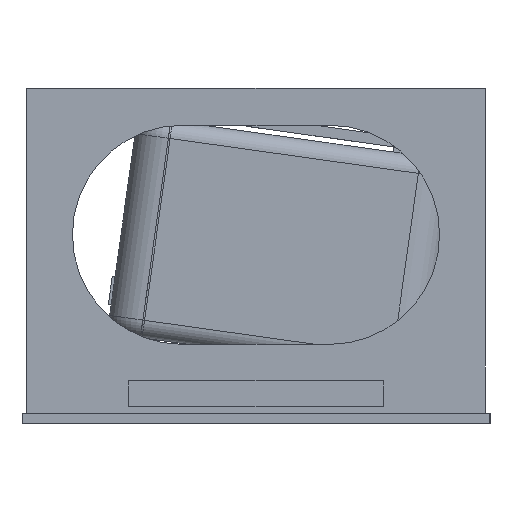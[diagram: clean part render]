
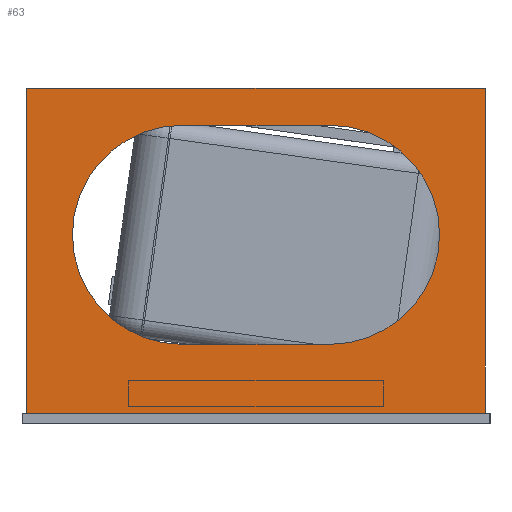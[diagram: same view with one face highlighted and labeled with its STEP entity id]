
A CAD part, left-side view. The second image highlights one B-rep face of the part: STEP entity #63.
In plain terms, the highlighted planar face has unit normal (-1, 0, 0).
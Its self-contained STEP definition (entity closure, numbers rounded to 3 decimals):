
#63 = ADVANCED_FACE('',(#64,#181),#78,.F.);
#64 = FACE_BOUND('',#65,.F.);
#65 = EDGE_LOOP('',(#66,#101,#127,#155));
#66 = ORIENTED_EDGE('',*,*,#67,.F.);
#67 = EDGE_CURVE('',#68,#70,#72,.T.);
#68 = VERTEX_POINT('',#69);
#69 = CARTESIAN_POINT('',(-107.,-65.,3.));
#70 = VERTEX_POINT('',#71);
#71 = CARTESIAN_POINT('',(-107.,-65.,95.));
#72 = SURFACE_CURVE('',#73,(#77,#89),.PCURVE_S1.);
#73 = LINE('',#74,#75);
#74 = CARTESIAN_POINT('',(-107.,-65.,0.));
#75 = VECTOR('',#76,1.);
#76 = DIRECTION('',(0.,0.,1.));
#77 = PCURVE('',#78,#83);
#78 = PLANE('',#79);
#79 = AXIS2_PLACEMENT_3D('',#80,#81,#82);
#80 = CARTESIAN_POINT('',(-107.,-65.,0.));
#81 = DIRECTION('',(1.,0.,0.));
#82 = DIRECTION('',(0.,0.,1.));
#83 = DEFINITIONAL_REPRESENTATION('',(#84),#88);
#84 = LINE('',#85,#86);
#85 = CARTESIAN_POINT('',(0.,0.));
#86 = VECTOR('',#87,1.);
#87 = DIRECTION('',(1.,0.));
#88 = ( GEOMETRIC_REPRESENTATION_CONTEXT(2) 
PARAMETRIC_REPRESENTATION_CONTEXT() REPRESENTATION_CONTEXT('2D SPACE',''
  ) );
#89 = PCURVE('',#90,#95);
#90 = PLANE('',#91);
#91 = AXIS2_PLACEMENT_3D('',#92,#93,#94);
#92 = CARTESIAN_POINT('',(-107.,-65.,0.));
#93 = DIRECTION('',(0.,1.,0.));
#94 = DIRECTION('',(0.,0.,1.));
#95 = DEFINITIONAL_REPRESENTATION('',(#96),#100);
#96 = LINE('',#97,#98);
#97 = CARTESIAN_POINT('',(0.,0.));
#98 = VECTOR('',#99,1.);
#99 = DIRECTION('',(1.,0.));
#100 = ( GEOMETRIC_REPRESENTATION_CONTEXT(2) 
PARAMETRIC_REPRESENTATION_CONTEXT() REPRESENTATION_CONTEXT('2D SPACE',''
  ) );
#101 = ORIENTED_EDGE('',*,*,#102,.F.);
#102 = EDGE_CURVE('',#103,#68,#105,.T.);
#103 = VERTEX_POINT('',#104);
#104 = CARTESIAN_POINT('',(-107.,65.,3.));
#105 = SURFACE_CURVE('',#106,(#110,#116),.PCURVE_S1.);
#106 = LINE('',#107,#108);
#107 = CARTESIAN_POINT('',(-107.,-65.5,3.));
#108 = VECTOR('',#109,1.);
#109 = DIRECTION('',(0.,-1.,0.));
#110 = PCURVE('',#78,#111);
#111 = DEFINITIONAL_REPRESENTATION('',(#112),#115);
#112 = B_SPLINE_CURVE_WITH_KNOTS('',1,(#113,#114),.UNSPECIFIED.,.F.,.F.,
  (2,2),(-130.5,-0.5),.PIECEWISE_BEZIER_KNOTS.);
#113 = CARTESIAN_POINT('',(3.,-130.));
#114 = CARTESIAN_POINT('',(3.,0.));
#115 = ( GEOMETRIC_REPRESENTATION_CONTEXT(2) 
PARAMETRIC_REPRESENTATION_CONTEXT() REPRESENTATION_CONTEXT('2D SPACE',''
  ) );
#116 = PCURVE('',#117,#122);
#117 = PLANE('',#118);
#118 = AXIS2_PLACEMENT_3D('',#119,#120,#121);
#119 = CARTESIAN_POINT('',(-108.,-66.,3.));
#120 = DIRECTION('',(0.,0.,1.));
#121 = DIRECTION('',(1.,0.,0.));
#122 = DEFINITIONAL_REPRESENTATION('',(#123),#126);
#123 = B_SPLINE_CURVE_WITH_KNOTS('',1,(#124,#125),.UNSPECIFIED.,.F.,.F.,
  (2,2),(-130.5,-0.5),.PIECEWISE_BEZIER_KNOTS.);
#124 = CARTESIAN_POINT('',(1.,131.));
#125 = CARTESIAN_POINT('',(1.,1.));
#126 = ( GEOMETRIC_REPRESENTATION_CONTEXT(2) 
PARAMETRIC_REPRESENTATION_CONTEXT() REPRESENTATION_CONTEXT('2D SPACE',''
  ) );
#127 = ORIENTED_EDGE('',*,*,#128,.F.);
#128 = EDGE_CURVE('',#129,#103,#131,.T.);
#129 = VERTEX_POINT('',#130);
#130 = CARTESIAN_POINT('',(-107.,65.,95.));
#131 = SURFACE_CURVE('',#132,(#136,#143),.PCURVE_S1.);
#132 = LINE('',#133,#134);
#133 = CARTESIAN_POINT('',(-107.,65.,95.));
#134 = VECTOR('',#135,1.);
#135 = DIRECTION('',(0.,0.,-1.));
#136 = PCURVE('',#78,#137);
#137 = DEFINITIONAL_REPRESENTATION('',(#138),#142);
#138 = LINE('',#139,#140);
#139 = CARTESIAN_POINT('',(95.,-130.));
#140 = VECTOR('',#141,1.);
#141 = DIRECTION('',(-1.,0.));
#142 = ( GEOMETRIC_REPRESENTATION_CONTEXT(2) 
PARAMETRIC_REPRESENTATION_CONTEXT() REPRESENTATION_CONTEXT('2D SPACE',''
  ) );
#143 = PCURVE('',#144,#149);
#144 = PLANE('',#145);
#145 = AXIS2_PLACEMENT_3D('',#146,#147,#148);
#146 = CARTESIAN_POINT('',(-107.,65.,0.));
#147 = DIRECTION('',(0.,1.,0.));
#148 = DIRECTION('',(0.,0.,1.));
#149 = DEFINITIONAL_REPRESENTATION('',(#150),#154);
#150 = LINE('',#151,#152);
#151 = CARTESIAN_POINT('',(95.,0.));
#152 = VECTOR('',#153,1.);
#153 = DIRECTION('',(-1.,0.));
#154 = ( GEOMETRIC_REPRESENTATION_CONTEXT(2) 
PARAMETRIC_REPRESENTATION_CONTEXT() REPRESENTATION_CONTEXT('2D SPACE',''
  ) );
#155 = ORIENTED_EDGE('',*,*,#156,.F.);
#156 = EDGE_CURVE('',#70,#129,#157,.T.);
#157 = SURFACE_CURVE('',#158,(#162,#169),.PCURVE_S1.);
#158 = LINE('',#159,#160);
#159 = CARTESIAN_POINT('',(-107.,-65.,95.));
#160 = VECTOR('',#161,1.);
#161 = DIRECTION('',(0.,1.,0.));
#162 = PCURVE('',#78,#163);
#163 = DEFINITIONAL_REPRESENTATION('',(#164),#168);
#164 = LINE('',#165,#166);
#165 = CARTESIAN_POINT('',(95.,0.));
#166 = VECTOR('',#167,1.);
#167 = DIRECTION('',(0.,-1.));
#168 = ( GEOMETRIC_REPRESENTATION_CONTEXT(2) 
PARAMETRIC_REPRESENTATION_CONTEXT() REPRESENTATION_CONTEXT('2D SPACE',''
  ) );
#169 = PCURVE('',#170,#175);
#170 = PLANE('',#171);
#171 = AXIS2_PLACEMENT_3D('',#172,#173,#174);
#172 = CARTESIAN_POINT('',(-107.,-65.,95.));
#173 = DIRECTION('',(0.,0.,1.));
#174 = DIRECTION('',(1.,0.,0.));
#175 = DEFINITIONAL_REPRESENTATION('',(#176),#180);
#176 = LINE('',#177,#178);
#177 = CARTESIAN_POINT('',(0.,0.));
#178 = VECTOR('',#179,1.);
#179 = DIRECTION('',(0.,1.));
#180 = ( GEOMETRIC_REPRESENTATION_CONTEXT(2) 
PARAMETRIC_REPRESENTATION_CONTEXT() REPRESENTATION_CONTEXT('2D SPACE',''
  ) );
#181 = FACE_BOUND('',#182,.F.);
#182 = EDGE_LOOP('',(#183,#211,#244,#270));
#183 = ORIENTED_EDGE('',*,*,#184,.F.);
#184 = EDGE_CURVE('',#185,#187,#189,.T.);
#185 = VERTEX_POINT('',#186);
#186 = CARTESIAN_POINT('',(-107.,21.,84.5));
#187 = VERTEX_POINT('',#188);
#188 = CARTESIAN_POINT('',(-107.,-21.,84.5));
#189 = SURFACE_CURVE('',#190,(#194,#200),.PCURVE_S1.);
#190 = LINE('',#191,#192);
#191 = CARTESIAN_POINT('',(-107.,-43.,84.5));
#192 = VECTOR('',#193,1.);
#193 = DIRECTION('',(0.,-1.,0.));
#194 = PCURVE('',#78,#195);
#195 = DEFINITIONAL_REPRESENTATION('',(#196),#199);
#196 = B_SPLINE_CURVE_WITH_KNOTS('',1,(#197,#198),.UNSPECIFIED.,.F.,.F.,
  (2,2),(-64.,-22.),.PIECEWISE_BEZIER_KNOTS.);
#197 = CARTESIAN_POINT('',(84.5,-86.));
#198 = CARTESIAN_POINT('',(84.5,-44.));
#199 = ( GEOMETRIC_REPRESENTATION_CONTEXT(2) 
PARAMETRIC_REPRESENTATION_CONTEXT() REPRESENTATION_CONTEXT('2D SPACE',''
  ) );
#200 = PCURVE('',#201,#206);
#201 = PLANE('',#202);
#202 = AXIS2_PLACEMENT_3D('',#203,#204,#205);
#203 = CARTESIAN_POINT('',(-108.,-21.,84.5));
#204 = DIRECTION('',(0.,0.,1.));
#205 = DIRECTION('',(0.,1.,0.));
#206 = DEFINITIONAL_REPRESENTATION('',(#207),#210);
#207 = B_SPLINE_CURVE_WITH_KNOTS('',1,(#208,#209),.UNSPECIFIED.,.F.,.F.,
  (2,2),(-64.,-22.),.PIECEWISE_BEZIER_KNOTS.);
#208 = CARTESIAN_POINT('',(42.,-1.));
#209 = CARTESIAN_POINT('',(0.,-1.));
#210 = ( GEOMETRIC_REPRESENTATION_CONTEXT(2) 
PARAMETRIC_REPRESENTATION_CONTEXT() REPRESENTATION_CONTEXT('2D SPACE',''
  ) );
#211 = ORIENTED_EDGE('',*,*,#212,.T.);
#212 = EDGE_CURVE('',#185,#213,#215,.T.);
#213 = VERTEX_POINT('',#214);
#214 = CARTESIAN_POINT('',(-107.,21.,22.5));
#215 = SURFACE_CURVE('',#216,(#221,#232),.PCURVE_S1.);
#216 = CIRCLE('',#217,31.);
#217 = AXIS2_PLACEMENT_3D('',#218,#219,#220);
#218 = CARTESIAN_POINT('',(-107.,21.,53.5));
#219 = DIRECTION('',(-1.,0.,0.));
#220 = DIRECTION('',(0.,0.,1.));
#221 = PCURVE('',#78,#222);
#222 = DEFINITIONAL_REPRESENTATION('',(#223),#231);
#223 = ( BOUNDED_CURVE() B_SPLINE_CURVE(2,(#224,#225,#226,#227,#228,#229
,#230),.UNSPECIFIED.,.T.,.F.) B_SPLINE_CURVE_WITH_KNOTS((1,2,2,2,2,1),(
    -2.094,0.,2.094,4.189,6.283,
8.378),.UNSPECIFIED.) CURVE() GEOMETRIC_REPRESENTATION_ITEM() 
RATIONAL_B_SPLINE_CURVE((1.,0.5,1.,0.5,1.,0.5,1.)) REPRESENTATION_ITEM(
  '') );
#224 = CARTESIAN_POINT('',(84.5,-86.));
#225 = CARTESIAN_POINT('',(84.5,-139.694));
#226 = CARTESIAN_POINT('',(38.,-112.847));
#227 = CARTESIAN_POINT('',(-8.5,-86.));
#228 = CARTESIAN_POINT('',(38.,-59.153));
#229 = CARTESIAN_POINT('',(84.5,-32.306));
#230 = CARTESIAN_POINT('',(84.5,-86.));
#231 = ( GEOMETRIC_REPRESENTATION_CONTEXT(2) 
PARAMETRIC_REPRESENTATION_CONTEXT() REPRESENTATION_CONTEXT('2D SPACE',''
  ) );
#232 = PCURVE('',#233,#238);
#233 = CYLINDRICAL_SURFACE('',#234,31.);
#234 = AXIS2_PLACEMENT_3D('',#235,#236,#237);
#235 = CARTESIAN_POINT('',(-108.,21.,53.5));
#236 = DIRECTION('',(-1.,0.,0.));
#237 = DIRECTION('',(0.,0.,1.));
#238 = DEFINITIONAL_REPRESENTATION('',(#239),#243);
#239 = LINE('',#240,#241);
#240 = CARTESIAN_POINT('',(0.,-1.));
#241 = VECTOR('',#242,1.);
#242 = DIRECTION('',(1.,0.));
#243 = ( GEOMETRIC_REPRESENTATION_CONTEXT(2) 
PARAMETRIC_REPRESENTATION_CONTEXT() REPRESENTATION_CONTEXT('2D SPACE',''
  ) );
#244 = ORIENTED_EDGE('',*,*,#245,.F.);
#245 = EDGE_CURVE('',#246,#213,#248,.T.);
#246 = VERTEX_POINT('',#247);
#247 = CARTESIAN_POINT('',(-107.,-21.,22.5));
#248 = SURFACE_CURVE('',#249,(#253,#259),.PCURVE_S1.);
#249 = LINE('',#250,#251);
#250 = CARTESIAN_POINT('',(-107.,-22.,22.5));
#251 = VECTOR('',#252,1.);
#252 = DIRECTION('',(-0.,1.,0.));
#253 = PCURVE('',#78,#254);
#254 = DEFINITIONAL_REPRESENTATION('',(#255),#258);
#255 = B_SPLINE_CURVE_WITH_KNOTS('',1,(#256,#257),.UNSPECIFIED.,.F.,.F.,
  (2,2),(1.,43.),.PIECEWISE_BEZIER_KNOTS.);
#256 = CARTESIAN_POINT('',(22.5,-44.));
#257 = CARTESIAN_POINT('',(22.5,-86.));
#258 = ( GEOMETRIC_REPRESENTATION_CONTEXT(2) 
PARAMETRIC_REPRESENTATION_CONTEXT() REPRESENTATION_CONTEXT('2D SPACE',''
  ) );
#259 = PCURVE('',#260,#265);
#260 = PLANE('',#261);
#261 = AXIS2_PLACEMENT_3D('',#262,#263,#264);
#262 = CARTESIAN_POINT('',(-108.,21.,22.5));
#263 = DIRECTION('',(0.,0.,-1.));
#264 = DIRECTION('',(0.,-1.,0.));
#265 = DEFINITIONAL_REPRESENTATION('',(#266),#269);
#266 = B_SPLINE_CURVE_WITH_KNOTS('',1,(#267,#268),.UNSPECIFIED.,.F.,.F.,
  (2,2),(1.,43.),.PIECEWISE_BEZIER_KNOTS.);
#267 = CARTESIAN_POINT('',(42.,-1.));
#268 = CARTESIAN_POINT('',(0.,-1.));
#269 = ( GEOMETRIC_REPRESENTATION_CONTEXT(2) 
PARAMETRIC_REPRESENTATION_CONTEXT() REPRESENTATION_CONTEXT('2D SPACE',''
  ) );
#270 = ORIENTED_EDGE('',*,*,#271,.T.);
#271 = EDGE_CURVE('',#246,#187,#272,.T.);
#272 = SURFACE_CURVE('',#273,(#278,#289),.PCURVE_S1.);
#273 = CIRCLE('',#274,31.);
#274 = AXIS2_PLACEMENT_3D('',#275,#276,#277);
#275 = CARTESIAN_POINT('',(-107.,-21.,53.5));
#276 = DIRECTION('',(-1.,-0.,0.));
#277 = DIRECTION('',(0.,0.,-1.));
#278 = PCURVE('',#78,#279);
#279 = DEFINITIONAL_REPRESENTATION('',(#280),#288);
#280 = ( BOUNDED_CURVE() B_SPLINE_CURVE(2,(#281,#282,#283,#284,#285,#286
,#287),.UNSPECIFIED.,.T.,.F.) B_SPLINE_CURVE_WITH_KNOTS((1,2,2,2,2,1),(
    -2.094,0.,2.094,4.189,6.283,
8.378),.UNSPECIFIED.) CURVE() GEOMETRIC_REPRESENTATION_ITEM() 
RATIONAL_B_SPLINE_CURVE((1.,0.5,1.,0.5,1.,0.5,1.)) REPRESENTATION_ITEM(
  '') );
#281 = CARTESIAN_POINT('',(22.5,-44.));
#282 = CARTESIAN_POINT('',(22.5,9.694));
#283 = CARTESIAN_POINT('',(69.,-17.153));
#284 = CARTESIAN_POINT('',(115.5,-44.));
#285 = CARTESIAN_POINT('',(69.,-70.847));
#286 = CARTESIAN_POINT('',(22.5,-97.694));
#287 = CARTESIAN_POINT('',(22.5,-44.));
#288 = ( GEOMETRIC_REPRESENTATION_CONTEXT(2) 
PARAMETRIC_REPRESENTATION_CONTEXT() REPRESENTATION_CONTEXT('2D SPACE',''
  ) );
#289 = PCURVE('',#290,#295);
#290 = CYLINDRICAL_SURFACE('',#291,31.);
#291 = AXIS2_PLACEMENT_3D('',#292,#293,#294);
#292 = CARTESIAN_POINT('',(-108.,-21.,53.5));
#293 = DIRECTION('',(-1.,-0.,0.));
#294 = DIRECTION('',(0.,0.,-1.));
#295 = DEFINITIONAL_REPRESENTATION('',(#296),#300);
#296 = LINE('',#297,#298);
#297 = CARTESIAN_POINT('',(0.,-1.));
#298 = VECTOR('',#299,1.);
#299 = DIRECTION('',(1.,0.));
#300 = ( GEOMETRIC_REPRESENTATION_CONTEXT(2) 
PARAMETRIC_REPRESENTATION_CONTEXT() REPRESENTATION_CONTEXT('2D SPACE',''
  ) );
